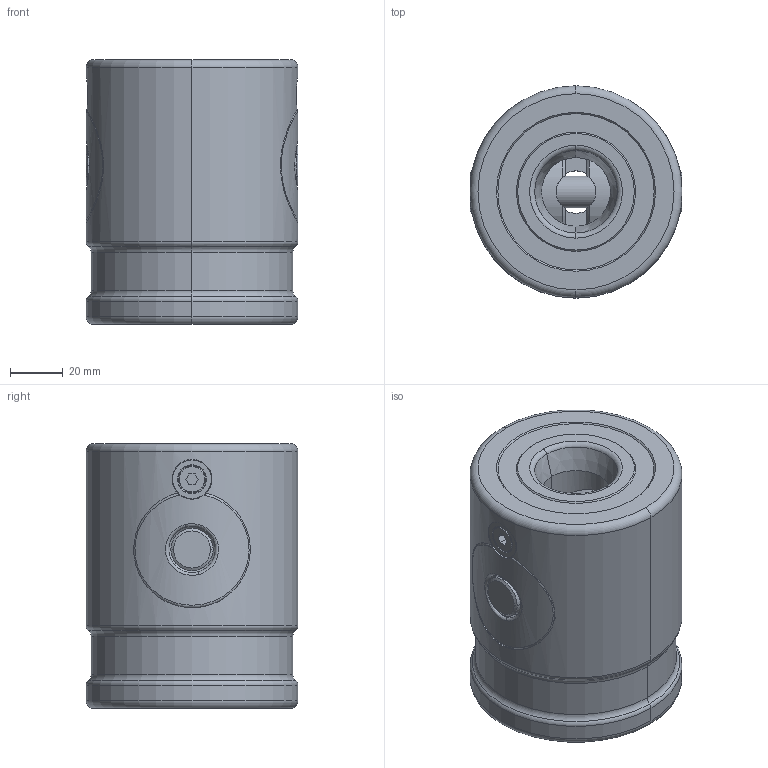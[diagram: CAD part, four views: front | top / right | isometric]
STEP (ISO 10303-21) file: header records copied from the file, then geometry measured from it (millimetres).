
FILE_DESCRIPTION (( 'STEP AP203' ), '1' );
FILE_NAME ('cp152-16100.STEP', '2021-10-25T23:52:59', ( '' ), ( '' ), 'SwSTEP 2.0', 'SolidWorks 2020', '' );
FILE_SCHEMA (( 'CONFIG_CONTROL_DESIGN' ));
Length unit declared in the file: millimetre
Products named in the file (5): cp152-16100_02; cp152-16100_01; cp152-16100; cp152-16100_03; cp152-16100_04
Assembly tree (4 placements, depth 2):
  cp152-16100
    cp152-16100_01
    cp152-16100_02
    cp152-16100_03
    cp152-16100_04
Bounding box: 80 x 80 x 100 mm (x, y, z)
Volume: 445109 mm3; surface area: 67758.1 mm2
Topology: 4 solids, 6 shells, 241 faces, 542 edges, 330 vertices
Faces by surface type: cylinder 84, cone 64, plane 59, torus 28, bspline 6
Entity records: 10123 total; most frequent: CARTESIAN_POINT 4148, DIRECTION 1220, ORIENTED_EDGE 1084, EDGE_CURVE 542, AXIS2_PLACEMENT_3D 510, VERTEX_POINT 330, EDGE_LOOP 276, CIRCLE 268
